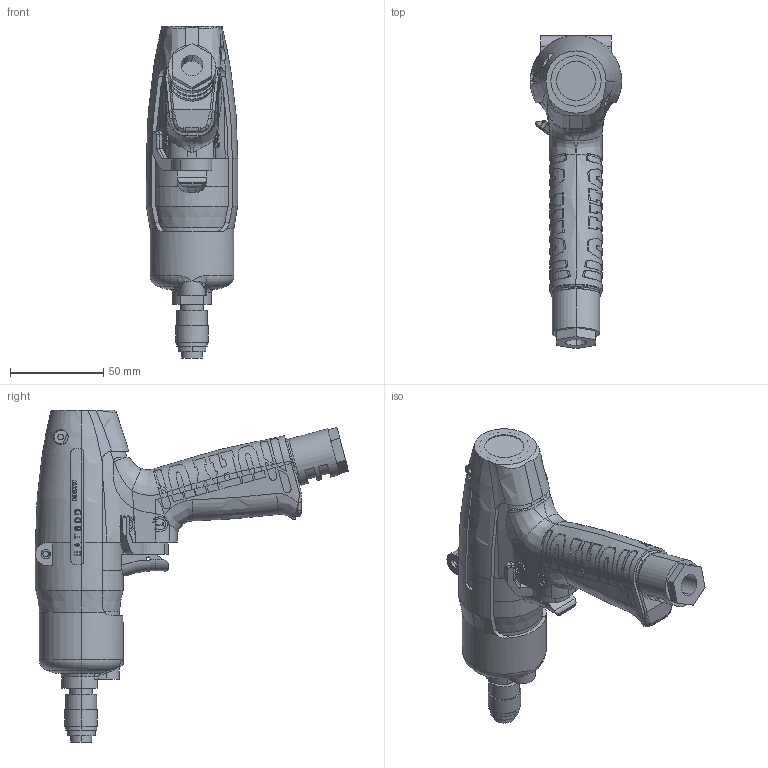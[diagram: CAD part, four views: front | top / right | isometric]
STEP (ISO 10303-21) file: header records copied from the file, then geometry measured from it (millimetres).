
FILE_DESCRIPTION (( 'STEP AP203' ), '1' );
FILE_NAME ('UAT60D.STEP', '2015-07-23T02:14:10', ( '' ), ( '' ), 'SwSTEP 2.0', 'SolidWorks 2014', '' );
FILE_SCHEMA (( 'CONFIG_CONTROL_DESIGN' ));
Length unit declared in the file: millimetre
Products named in the file (9): 0113511_UAT60D; 1454397_UAT60D; 1458408_UAT60D; 1471072_UAT60D; 1478422_UAT60D; 4802128_UAT60D; UAT60D; 1450256_UAT60D; 1453502_UAT60D
Assembly tree (8 placements, depth 2):
  UAT60D
    1450256_UAT60D
    1453502_UAT60D
    0113511_UAT60D
    1454397_UAT60D
    1458408_UAT60D
    1471072_UAT60D
    1478422_UAT60D
    4802128_UAT60D
Bounding box: 49 x 167.85 x 178 mm (x, y, z)
Volume: 333679.6 mm3; surface area: 97168.2 mm2
Topology: 8 solids, 8 shells, 1272 faces, 3499 edges, 2274 vertices
Faces by surface type: plane 727, cylinder 236, bspline 235, torus 46, cone 28
Entity records: 61416 total; most frequent: CARTESIAN_POINT 31678, ORIENTED_EDGE 6974, DIRECTION 4513, EDGE_CURVE 3487, VERTEX_POINT 2274, AXIS2_PLACEMENT_3D 1511, LINE 1491, VECTOR 1491
